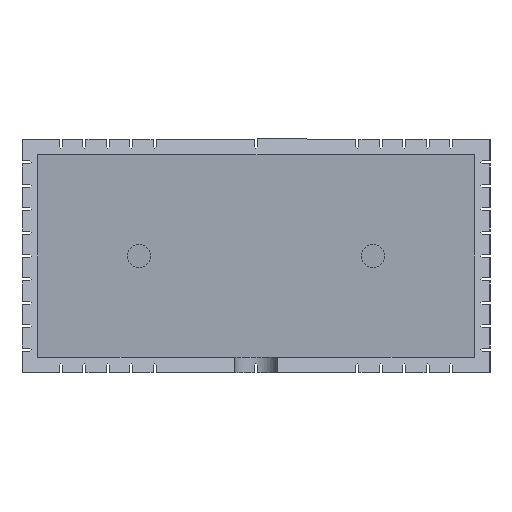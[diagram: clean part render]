
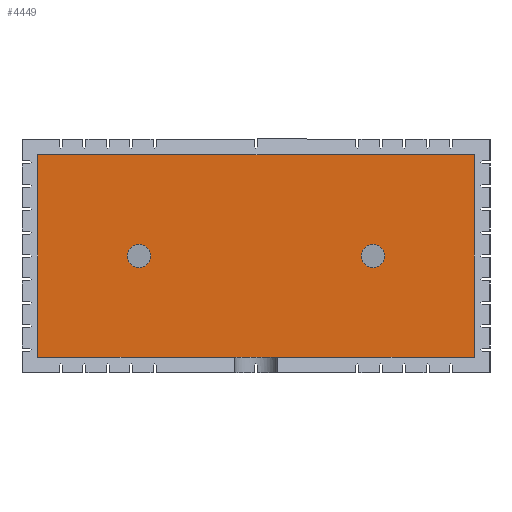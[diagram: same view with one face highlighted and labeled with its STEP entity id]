
A CAD part, left-side view. The second image highlights one B-rep face of the part: STEP entity #4449.
In plain terms, the highlighted planar face has unit normal (-1, 0, 0).
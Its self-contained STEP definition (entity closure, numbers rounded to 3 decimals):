
#190 = CARTESIAN_POINT ( 'NONE',  ( 16.2, 28., 13. ) ) ;
#192 = EDGE_CURVE ( 'NONE', #958, #2659, #2385, .T. ) ;
#452 = ORIENTED_EDGE ( 'NONE', *, *, #790, .F. ) ;
#464 = VECTOR ( 'NONE', #5442, 1000. ) ;
#522 = CARTESIAN_POINT ( 'NONE',  ( 16.2, 15., 1.5 ) ) ;
#606 = DIRECTION ( 'NONE',  ( -1., 0., 0. ) ) ;
#693 = VERTEX_POINT ( 'NONE', #522 ) ;
#790 = EDGE_CURVE ( 'NONE', #693, #5509, #4908, .T. ) ;
#798 = AXIS2_PLACEMENT_3D ( 'NONE', #4622, #3959, #6023 ) ;
#825 = EDGE_LOOP ( 'NONE', ( #1221, #452 ) ) ;
#849 = CARTESIAN_POINT ( 'NONE',  ( 16.2, -28., 13. ) ) ;
#878 = CARTESIAN_POINT ( 'NONE',  ( 16.2, 15., 0. ) ) ;
#958 = VERTEX_POINT ( 'NONE', #5970 ) ;
#969 = CARTESIAN_POINT ( 'NONE',  ( 16.2, 15., 0. ) ) ;
#1074 = DIRECTION ( 'NONE',  ( 0., 0., 1. ) ) ;
#1090 = EDGE_CURVE ( 'NONE', #5191, #3709, #6154, .T. ) ;
#1095 = CARTESIAN_POINT ( 'NONE',  ( 16.2, -15., 0. ) ) ;
#1221 = ORIENTED_EDGE ( 'NONE', *, *, #6342, .F. ) ;
#1279 = LINE ( 'NONE', #190, #2268 ) ;
#1304 = ORIENTED_EDGE ( 'NONE', *, *, #5320, .F. ) ;
#1585 = CARTESIAN_POINT ( 'NONE',  ( 16.2, -15., 1.5 ) ) ;
#1631 = ORIENTED_EDGE ( 'NONE', *, *, #1090, .T. ) ;
#1652 = CIRCLE ( 'NONE', #6302, 1.5 ) ;
#1690 = DIRECTION ( 'NONE',  ( 0., 0., -1. ) ) ;
#1731 = VECTOR ( 'NONE', #3999, 1000. ) ;
#1997 = CARTESIAN_POINT ( 'NONE',  ( 16.2, 15., -1.5 ) ) ;
#2048 = FACE_OUTER_BOUND ( 'NONE', #5229, .T. ) ;
#2237 = DIRECTION ( 'NONE',  ( 0., 0., -1. ) ) ;
#2268 = VECTOR ( 'NONE', #1690, 1000. ) ;
#2385 = LINE ( 'NONE', #849, #464 ) ;
#2519 = VERTEX_POINT ( 'NONE', #3931 ) ;
#2574 = PLANE ( 'NONE',  #798 ) ;
#2659 = VERTEX_POINT ( 'NONE', #3073 ) ;
#2660 = CARTESIAN_POINT ( 'NONE',  ( 16.2, -28., -13. ) ) ;
#2754 = AXIS2_PLACEMENT_3D ( 'NONE', #969, #3265, #2237 ) ;
#2903 = CARTESIAN_POINT ( 'NONE',  ( 16.2, 28., -13. ) ) ;
#2967 = DIRECTION ( 'NONE',  ( 0., 0., -1. ) ) ;
#3073 = CARTESIAN_POINT ( 'NONE',  ( 16.2, 28., 13. ) ) ;
#3171 = CARTESIAN_POINT ( 'NONE',  ( 16.2, -15., 0. ) ) ;
#3265 = DIRECTION ( 'NONE',  ( -1., 0., 0. ) ) ;
#3339 = EDGE_CURVE ( 'NONE', #2519, #6466, #1652, .T. ) ;
#3433 = CIRCLE ( 'NONE', #4837, 1.5 ) ;
#3559 = DIRECTION ( 'NONE',  ( -1., 0., 0. ) ) ;
#3627 = ORIENTED_EDGE ( 'NONE', *, *, #5481, .T. ) ;
#3709 = VERTEX_POINT ( 'NONE', #2660 ) ;
#3820 = DIRECTION ( 'NONE',  ( 0., 0., 1. ) ) ;
#3870 = AXIS2_PLACEMENT_3D ( 'NONE', #878, #5626, #2967 ) ;
#3931 = CARTESIAN_POINT ( 'NONE',  ( 16.2, -15., -1.5 ) ) ;
#3959 = DIRECTION ( 'NONE',  ( -1., 0., 0. ) ) ;
#3995 = ORIENTED_EDGE ( 'NONE', *, *, #4576, .T. ) ;
#3999 = DIRECTION ( 'NONE',  ( 0., -1., 0. ) ) ;
#4291 = CARTESIAN_POINT ( 'NONE',  ( 16.2, -28., -13. ) ) ;
#4318 = EDGE_LOOP ( 'NONE', ( #5682, #1304 ) ) ;
#4449 = ADVANCED_FACE ( 'NONE', ( #4591, #6652, #2048 ), #2574, .T. ) ;
#4576 = EDGE_CURVE ( 'NONE', #3709, #958, #6428, .T. ) ;
#4591 = FACE_BOUND ( 'NONE', #4318, .T. ) ;
#4622 = CARTESIAN_POINT ( 'NONE',  ( 16.2, 0., 0. ) ) ;
#4837 = AXIS2_PLACEMENT_3D ( 'NONE', #1095, #3559, #5624 ) ;
#4908 = CIRCLE ( 'NONE', #2754, 1.5 ) ;
#5046 = CIRCLE ( 'NONE', #3870, 1.5 ) ;
#5153 = ORIENTED_EDGE ( 'NONE', *, *, #192, .T. ) ;
#5191 = VERTEX_POINT ( 'NONE', #2903 ) ;
#5229 = EDGE_LOOP ( 'NONE', ( #3627, #1631, #3995, #5153 ) ) ;
#5309 = VECTOR ( 'NONE', #3820, 1000. ) ;
#5320 = EDGE_CURVE ( 'NONE', #6466, #2519, #3433, .T. ) ;
#5442 = DIRECTION ( 'NONE',  ( 0., 1., 0. ) ) ;
#5481 = EDGE_CURVE ( 'NONE', #2659, #5191, #1279, .T. ) ;
#5509 = VERTEX_POINT ( 'NONE', #1997 ) ;
#5586 = CARTESIAN_POINT ( 'NONE',  ( 16.2, 28., -13. ) ) ;
#5624 = DIRECTION ( 'NONE',  ( 0., 0., 1. ) ) ;
#5626 = DIRECTION ( 'NONE',  ( -1., 0., 0. ) ) ;
#5682 = ORIENTED_EDGE ( 'NONE', *, *, #3339, .F. ) ;
#5970 = CARTESIAN_POINT ( 'NONE',  ( 16.2, -28., 13. ) ) ;
#6023 = DIRECTION ( 'NONE',  ( 0., 0., 1. ) ) ;
#6154 = LINE ( 'NONE', #5586, #1731 ) ;
#6302 = AXIS2_PLACEMENT_3D ( 'NONE', #3171, #606, #1074 ) ;
#6342 = EDGE_CURVE ( 'NONE', #5509, #693, #5046, .T. ) ;
#6428 = LINE ( 'NONE', #4291, #5309 ) ;
#6466 = VERTEX_POINT ( 'NONE', #1585 ) ;
#6652 = FACE_BOUND ( 'NONE', #825, .T. ) ;
